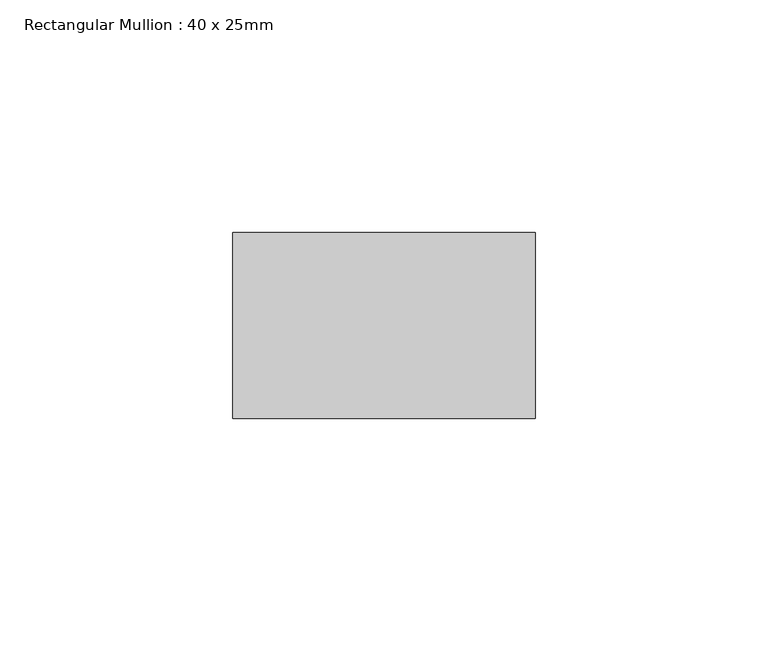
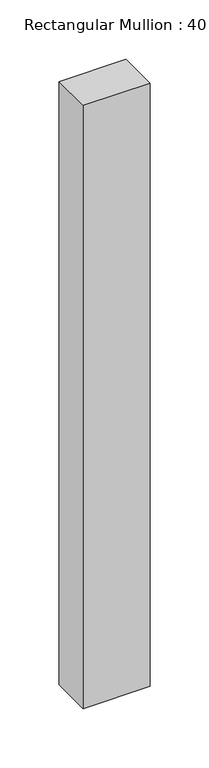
"""IFC4 building model written with IfcOpenShell, lengths in millimetres: member geometry, Rectangular Mullion : 40 x 25mm."""

from ifc_helpers import new_model, si_unit, frame, origin, place, context, project, spatial, polyline, outline, extrude, source, transform, mapped, element, save


def rectangular_mullion_40_x_25mm_e6b3cf6d(model_context):
    return source(origin(), model_context, "Body", "SweptSolid", [
        extrude(outline(polyline([(0.0, -20.0), (0.0, -60.0), (-65.0, -60.0), (-65.0, -20.0), (0.0, -20.0)])), frame((0.0, 0.0, -620.0), z_axis=(0.0, 0.0, 1.0), x_axis=(1.0, 0.0, 0.0)), (0.0, 0.0, 1.0), 620.0),
    ])


if __name__ == "__main__":
    model = new_model("IFC4")
    model_context = context("Model", 3, world=origin())
    ifc_project = project(units=[si_unit("LENGTHUNIT", "METRE", prefix="MILLI")], contexts=[model_context])
    site = spatial("IfcSite", under=ifc_project)
    building = spatial("IfcBuilding", under=site)
    placement = place(None, origin())
    rectangular_mullion_40_x_25mm_shape = rectangular_mullion_40_x_25mm_e6b3cf6d(model_context)
    element("IfcMember", 1, ObjectType="Rectangular Mullion : 40 x 25mm", at=placement, inside=building, context=model_context, shape_type="MappedRepresentation", body=[
        mapped(rectangular_mullion_40_x_25mm_shape, transform((0.0, 0.0, 0.0), x_axis=(1.0, 0.0, 0.0), y_axis=(0.0, 1.0, 0.0), z_axis=(0.0, 0.0, 1.0))),
    ])
    save(model, "model.ifc")
